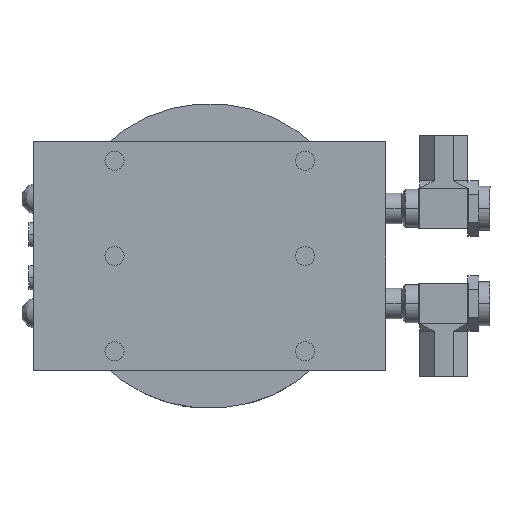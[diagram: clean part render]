
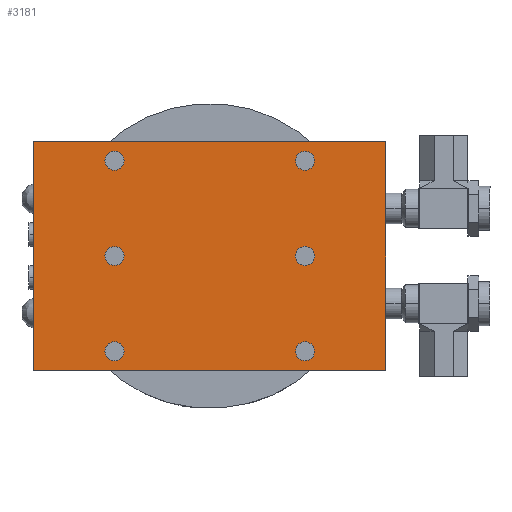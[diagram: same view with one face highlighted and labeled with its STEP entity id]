
A CAD part, front view. The second image highlights one B-rep face of the part: STEP entity #3181.
In plain terms, the highlighted planar face has unit normal (0, -1, 0) as drawn and (0, 0, -1) by its records, which use the part's own axes.
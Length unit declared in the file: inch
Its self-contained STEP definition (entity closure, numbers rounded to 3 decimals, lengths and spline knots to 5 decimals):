
#2 = VECTOR ( 'NONE', #3906, 39.37008 ) ;
#105 = CIRCLE ( 'NONE', #9592, 0.1255 ) ;
#130 = ORIENTED_EDGE ( 'NONE', *, *, #3836, .T. ) ;
#238 = DIRECTION ( 'NONE',  ( 0., 0., -1. ) ) ;
#348 = CARTESIAN_POINT ( 'NONE',  ( 1.25, 1.25, -0.63 ) ) ;
#403 = ORIENTED_EDGE ( 'NONE', *, *, #7264, .F. ) ;
#425 = EDGE_CURVE ( 'NONE', #1288, #4703, #5787, .T. ) ;
#437 = EDGE_CURVE ( 'NONE', #8290, #8496, #987, .T. ) ;
#593 = CARTESIAN_POINT ( 'NONE',  ( -1.25, 0., -0.63 ) ) ;
#594 = AXIS2_PLACEMENT_3D ( 'NONE', #2924, #8282, #3684 ) ;
#624 = VERTEX_POINT ( 'NONE', #8315 ) ;
#713 = ORIENTED_EDGE ( 'NONE', *, *, #5417, .F. ) ;
#767 = CARTESIAN_POINT ( 'NONE',  ( 0., 1.5, -0.63 ) ) ;
#857 = ORIENTED_EDGE ( 'NONE', *, *, #5737, .F. ) ;
#872 = CARTESIAN_POINT ( 'NONE',  ( -1.25, 1.25, -0.63 ) ) ;
#987 = CIRCLE ( 'NONE', #7771, 0.125 ) ;
#997 = FACE_OUTER_BOUND ( 'NONE', #3286, .T. ) ;
#1027 = CARTESIAN_POINT ( 'NONE',  ( -1.3755, 0., -0.63 ) ) ;
#1132 = DIRECTION ( 'NONE',  ( 1., 0., 0. ) ) ;
#1226 = LINE ( 'NONE', #767, #7354 ) ;
#1238 = AXIS2_PLACEMENT_3D ( 'NONE', #9373, #2483, #7855 ) ;
#1288 = VERTEX_POINT ( 'NONE', #7167 ) ;
#1363 = AXIS2_PLACEMENT_3D ( 'NONE', #7283, #2689, #8046 ) ;
#1370 = EDGE_CURVE ( 'NONE', #8496, #8290, #3125, .T. ) ;
#1383 = DIRECTION ( 'NONE',  ( 1., 0., 0. ) ) ;
#1557 = ORIENTED_EDGE ( 'NONE', *, *, #4808, .F. ) ;
#1566 = VERTEX_POINT ( 'NONE', #4888 ) ;
#1649 = DIRECTION ( 'NONE',  ( 1., 0., 0. ) ) ;
#1651 = ORIENTED_EDGE ( 'NONE', *, *, #7331, .F. ) ;
#1875 = AXIS2_PLACEMENT_3D ( 'NONE', #348, #5726, #1132 ) ;
#1886 = ORIENTED_EDGE ( 'NONE', *, *, #5954, .F. ) ;
#1932 = EDGE_LOOP ( 'NONE', ( #713, #7899 ) ) ;
#2010 = CARTESIAN_POINT ( 'NONE',  ( 1.25, -1.25, -0.63 ) ) ;
#2269 = DIRECTION ( 'NONE',  ( 0., 1., 0. ) ) ;
#2332 = CARTESIAN_POINT ( 'NONE',  ( 0., -1.5, -0.63 ) ) ;
#2334 = EDGE_CURVE ( 'NONE', #4475, #6285, #6351, .T. ) ;
#2364 = VERTEX_POINT ( 'NONE', #1027 ) ;
#2483 = DIRECTION ( 'NONE',  ( 0., 0., 1. ) ) ;
#2534 = VERTEX_POINT ( 'NONE', #2759 ) ;
#2596 = AXIS2_PLACEMENT_3D ( 'NONE', #2848, #8219, #3619 ) ;
#2689 = DIRECTION ( 'NONE',  ( 0., 0., -1. ) ) ;
#2714 = VERTEX_POINT ( 'NONE', #2852 ) ;
#2759 = CARTESIAN_POINT ( 'NONE',  ( -1.125, 1.25, -0.63 ) ) ;
#2774 = DIRECTION ( 'NONE',  ( 1., 0., 0. ) ) ;
#2825 = EDGE_CURVE ( 'NONE', #624, #1566, #5689, .T. ) ;
#2848 = CARTESIAN_POINT ( 'NONE',  ( 1.25, -1.25, -0.63 ) ) ;
#2852 = CARTESIAN_POINT ( 'NONE',  ( 1.1245, 0., -0.63 ) ) ;
#2924 = CARTESIAN_POINT ( 'NONE',  ( 1.25, 0., -0.63 ) ) ;
#3033 = FACE_BOUND ( 'NONE', #6075, .T. ) ;
#3125 = CIRCLE ( 'NONE', #1875, 0.125 ) ;
#3137 = VECTOR ( 'NONE', #8831, 39.37008 ) ;
#3181 = ADVANCED_FACE ( 'NONE', ( #5071, #7111, #5559, #9167, #3033, #3744, #997 ), #7074, .F. ) ;
#3244 = DIRECTION ( 'NONE',  ( 0., 0., -1. ) ) ;
#3286 = EDGE_LOOP ( 'NONE', ( #130, #8158, #5375, #9907 ) ) ;
#3334 = VERTEX_POINT ( 'NONE', #4969 ) ;
#3370 = CIRCLE ( 'NONE', #1363, 0.1255 ) ;
#3457 = CARTESIAN_POINT ( 'NONE',  ( 2.3125, 0., -0.63 ) ) ;
#3523 = EDGE_CURVE ( 'NONE', #4703, #1288, #6274, .T. ) ;
#3619 = DIRECTION ( 'NONE',  ( 1., 0., 0. ) ) ;
#3684 = DIRECTION ( 'NONE',  ( 1., 0., 0. ) ) ;
#3744 = FACE_BOUND ( 'NONE', #9297, .T. ) ;
#3823 = DIRECTION ( 'NONE',  ( 0., 0., -1. ) ) ;
#3836 = EDGE_CURVE ( 'NONE', #8784, #624, #4101, .T. ) ;
#3906 = DIRECTION ( 'NONE',  ( -1., 0., 0. ) ) ;
#4040 = CARTESIAN_POINT ( 'NONE',  ( -1.375, -1.25, -0.63 ) ) ;
#4078 = DIRECTION ( 'NONE',  ( 0., 0., -1. ) ) ;
#4101 = LINE ( 'NONE', #2332, #2 ) ;
#4348 = DIRECTION ( 'NONE',  ( 0., 0., -1. ) ) ;
#4475 = VERTEX_POINT ( 'NONE', #4040 ) ;
#4553 = DIRECTION ( 'NONE',  ( 1., 0., 0. ) ) ;
#4703 = VERTEX_POINT ( 'NONE', #7351 ) ;
#4777 = EDGE_LOOP ( 'NONE', ( #1557, #1651 ) ) ;
#4808 = EDGE_CURVE ( 'NONE', #3334, #2714, #8068, .T. ) ;
#4853 = CARTESIAN_POINT ( 'NONE',  ( 1.25, 0., -0.63 ) ) ;
#4888 = CARTESIAN_POINT ( 'NONE',  ( -2.3125, 1.5, -0.63 ) ) ;
#4969 = CARTESIAN_POINT ( 'NONE',  ( 1.3755, 0., -0.63 ) ) ;
#5071 = FACE_BOUND ( 'NONE', #1932, .T. ) ;
#5173 = LINE ( 'NONE', #3457, #3137 ) ;
#5375 = ORIENTED_EDGE ( 'NONE', *, *, #8728, .T. ) ;
#5417 = EDGE_CURVE ( 'NONE', #2534, #8555, #9872, .T. ) ;
#5450 = VECTOR ( 'NONE', #2269, 39.37008 ) ;
#5559 = FACE_BOUND ( 'NONE', #4777, .T. ) ;
#5619 = DIRECTION ( 'NONE',  ( 1., 0., 0. ) ) ;
#5689 = LINE ( 'NONE', #9175, #5450 ) ;
#5721 = AXIS2_PLACEMENT_3D ( 'NONE', #2010, #7371, #2774 ) ;
#5726 = DIRECTION ( 'NONE',  ( 0., 0., -1. ) ) ;
#5737 = EDGE_CURVE ( 'NONE', #6959, #2364, #3370, .T. ) ;
#5761 = EDGE_CURVE ( 'NONE', #7886, #8784, #5173, .T. ) ;
#5787 = CIRCLE ( 'NONE', #5721, 0.125 ) ;
#5954 = EDGE_CURVE ( 'NONE', #2364, #6959, #105, .T. ) ;
#5957 = CARTESIAN_POINT ( 'NONE',  ( -1.1245, 0., -0.63 ) ) ;
#5969 = DIRECTION ( 'NONE',  ( 0., 0., -1. ) ) ;
#5993 = ORIENTED_EDGE ( 'NONE', *, *, #437, .F. ) ;
#6075 = EDGE_LOOP ( 'NONE', ( #8869, #7357 ) ) ;
#6247 = DIRECTION ( 'NONE',  ( 0., 0., -1. ) ) ;
#6274 = CIRCLE ( 'NONE', #2596, 0.125 ) ;
#6285 = VERTEX_POINT ( 'NONE', #7273 ) ;
#6347 = CARTESIAN_POINT ( 'NONE',  ( 2.3125, 1.5, -0.63 ) ) ;
#6351 = CIRCLE ( 'NONE', #9602, 0.125 ) ;
#6367 = AXIS2_PLACEMENT_3D ( 'NONE', #8431, #3823, #9216 ) ;
#6559 = AXIS2_PLACEMENT_3D ( 'NONE', #7831, #3244, #8614 ) ;
#6605 = CARTESIAN_POINT ( 'NONE',  ( 1.125, 1.25, -0.63 ) ) ;
#6677 = CIRCLE ( 'NONE', #6559, 0.125 ) ;
#6959 = VERTEX_POINT ( 'NONE', #5957 ) ;
#7074 = PLANE ( 'NONE',  #1238 ) ;
#7111 = FACE_BOUND ( 'NONE', #8364, .T. ) ;
#7150 = CIRCLE ( 'NONE', #7215, 0.125 ) ;
#7167 = CARTESIAN_POINT ( 'NONE',  ( 1.375, -1.25, -0.63 ) ) ;
#7215 = AXIS2_PLACEMENT_3D ( 'NONE', #872, #6247, #1649 ) ;
#7264 = EDGE_CURVE ( 'NONE', #6285, #4475, #6677, .T. ) ;
#7273 = CARTESIAN_POINT ( 'NONE',  ( -1.125, -1.25, -0.63 ) ) ;
#7283 = CARTESIAN_POINT ( 'NONE',  ( -1.25, 0., -0.63 ) ) ;
#7331 = EDGE_CURVE ( 'NONE', #2714, #3334, #7995, .T. ) ;
#7351 = CARTESIAN_POINT ( 'NONE',  ( 1.125, -1.25, -0.63 ) ) ;
#7354 = VECTOR ( 'NONE', #4553, 39.37008 ) ;
#7357 = ORIENTED_EDGE ( 'NONE', *, *, #3523, .F. ) ;
#7371 = DIRECTION ( 'NONE',  ( 0., 0., -1. ) ) ;
#7681 = ORIENTED_EDGE ( 'NONE', *, *, #1370, .F. ) ;
#7771 = AXIS2_PLACEMENT_3D ( 'NONE', #8963, #4348, #9735 ) ;
#7793 = EDGE_CURVE ( 'NONE', #8555, #2534, #7150, .T. ) ;
#7831 = CARTESIAN_POINT ( 'NONE',  ( -1.25, -1.25, -0.63 ) ) ;
#7855 = DIRECTION ( 'NONE',  ( 1., 0., 0. ) ) ;
#7886 = VERTEX_POINT ( 'NONE', #6347 ) ;
#7899 = ORIENTED_EDGE ( 'NONE', *, *, #7793, .F. ) ;
#7944 = ORIENTED_EDGE ( 'NONE', *, *, #2334, .F. ) ;
#7995 = CIRCLE ( 'NONE', #9150, 0.1255 ) ;
#8046 = DIRECTION ( 'NONE',  ( 1., 0., 0. ) ) ;
#8068 = CIRCLE ( 'NONE', #594, 0.1255 ) ;
#8158 = ORIENTED_EDGE ( 'NONE', *, *, #2825, .T. ) ;
#8219 = DIRECTION ( 'NONE',  ( 0., 0., -1. ) ) ;
#8282 = DIRECTION ( 'NONE',  ( 0., 0., -1. ) ) ;
#8290 = VERTEX_POINT ( 'NONE', #9322 ) ;
#8315 = CARTESIAN_POINT ( 'NONE',  ( -2.3125, -1.5, -0.63 ) ) ;
#8364 = EDGE_LOOP ( 'NONE', ( #403, #7944 ) ) ;
#8431 = CARTESIAN_POINT ( 'NONE',  ( -1.25, 1.25, -0.63 ) ) ;
#8495 = CARTESIAN_POINT ( 'NONE',  ( 2.3125, -1.5, -0.63 ) ) ;
#8496 = VERTEX_POINT ( 'NONE', #6605 ) ;
#8555 = VERTEX_POINT ( 'NONE', #8978 ) ;
#8614 = DIRECTION ( 'NONE',  ( 1., 0., 0. ) ) ;
#8688 = CARTESIAN_POINT ( 'NONE',  ( -1.25, -1.25, -0.63 ) ) ;
#8728 = EDGE_CURVE ( 'NONE', #1566, #7886, #1226, .T. ) ;
#8784 = VERTEX_POINT ( 'NONE', #8495 ) ;
#8831 = DIRECTION ( 'NONE',  ( 0., -1., 0. ) ) ;
#8869 = ORIENTED_EDGE ( 'NONE', *, *, #425, .F. ) ;
#8963 = CARTESIAN_POINT ( 'NONE',  ( 1.25, 1.25, -0.63 ) ) ;
#8978 = CARTESIAN_POINT ( 'NONE',  ( -1.375, 1.25, -0.63 ) ) ;
#9150 = AXIS2_PLACEMENT_3D ( 'NONE', #4853, #238, #5619 ) ;
#9167 = FACE_BOUND ( 'NONE', #9266, .T. ) ;
#9175 = CARTESIAN_POINT ( 'NONE',  ( -2.3125, 0., -0.63 ) ) ;
#9216 = DIRECTION ( 'NONE',  ( 1., 0., 0. ) ) ;
#9266 = EDGE_LOOP ( 'NONE', ( #5993, #7681 ) ) ;
#9297 = EDGE_LOOP ( 'NONE', ( #857, #1886 ) ) ;
#9322 = CARTESIAN_POINT ( 'NONE',  ( 1.375, 1.25, -0.63 ) ) ;
#9373 = CARTESIAN_POINT ( 'NONE',  ( 0., 0., -0.63 ) ) ;
#9469 = DIRECTION ( 'NONE',  ( 1., 0., 0. ) ) ;
#9592 = AXIS2_PLACEMENT_3D ( 'NONE', #593, #5969, #1383 ) ;
#9602 = AXIS2_PLACEMENT_3D ( 'NONE', #8688, #4078, #9469 ) ;
#9735 = DIRECTION ( 'NONE',  ( 1., 0., 0. ) ) ;
#9872 = CIRCLE ( 'NONE', #6367, 0.125 ) ;
#9907 = ORIENTED_EDGE ( 'NONE', *, *, #5761, .T. ) ;
